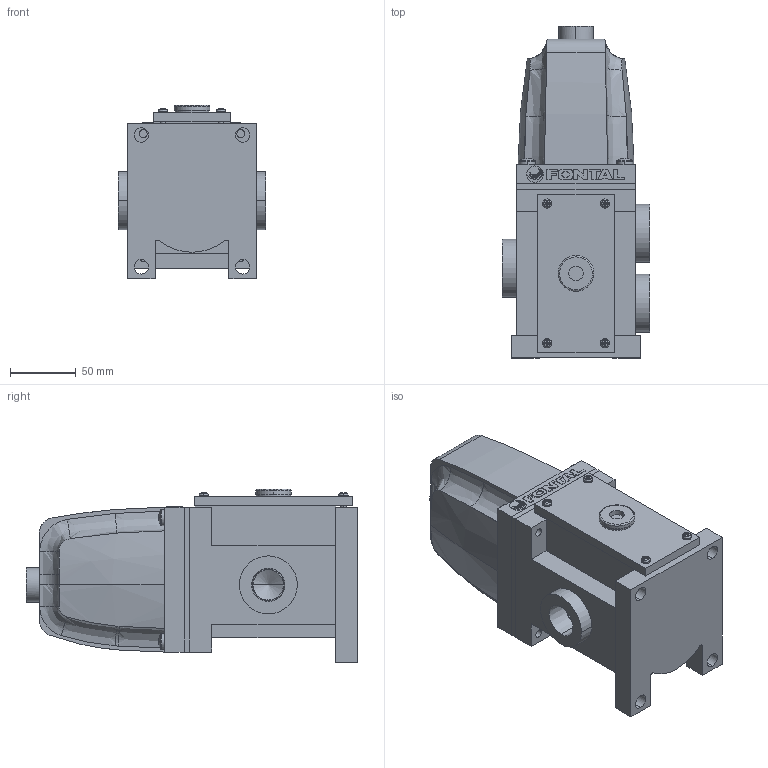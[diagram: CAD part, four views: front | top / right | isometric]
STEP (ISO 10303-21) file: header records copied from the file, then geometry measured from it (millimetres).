
FILE_DESCRIPTION (( 'STEP AP203' ), '1' );
FILE_NAME ('AS2325-06-##.STEP', '2016-03-09T03:49:08', ( 'Sam Lin' ), ( '' ), 'SwSTEP 2.0', 'SolidWorks 2013', '' );
FILE_SCHEMA (( 'CONFIG_CONTROL_DESIGN' ));
Length unit declared in the file: metre
Products named in the file (9): AS2325-1; AS2325-2; AS2325-3; AS2325-4; ISO 7045 - M4 x 8; ISO 7045 - M6 x 20; AS2410-4; A15-MARK-2415; AS2325-06-##
Assembly tree (14 placements, depth 2):
  AS2325-06-##
    AS2325-1
    AS2325-2
    AS2325-3
    AS2325-4
    ISO 7045 - M4 x 8  x4
    AS2410-4
    ISO 7045 - M6 x 20  x4
    A15-MARK-2415
Bounding box: 112 x 251.9 x 131.5 mm (x, y, z)
Volume: 1972826.9 mm3; surface area: 188672 mm2
Topology: 20 solids, 20 shells, 537 faces, 1361 edges, 861 vertices
Faces by surface type: plane 276, cylinder 121, bspline 80, cone 60
Entity records: 13671 total; most frequent: CARTESIAN_POINT 4780, ORIENTED_EDGE 1670, DIRECTION 1515, EDGE_CURVE 835, VERTEX_POINT 543, AXIS2_PLACEMENT_3D 533, LINE 449, VECTOR 449
